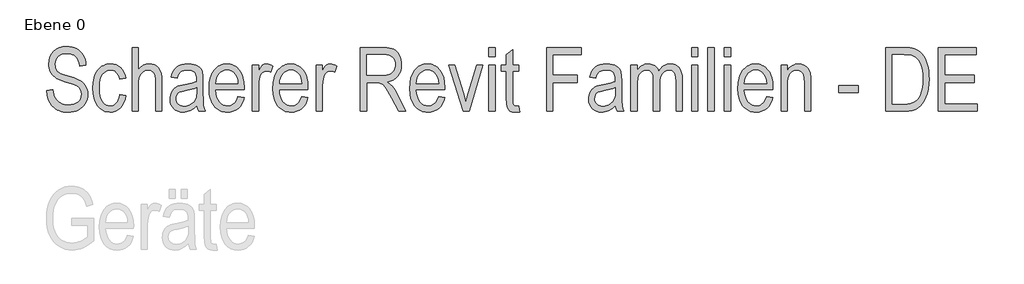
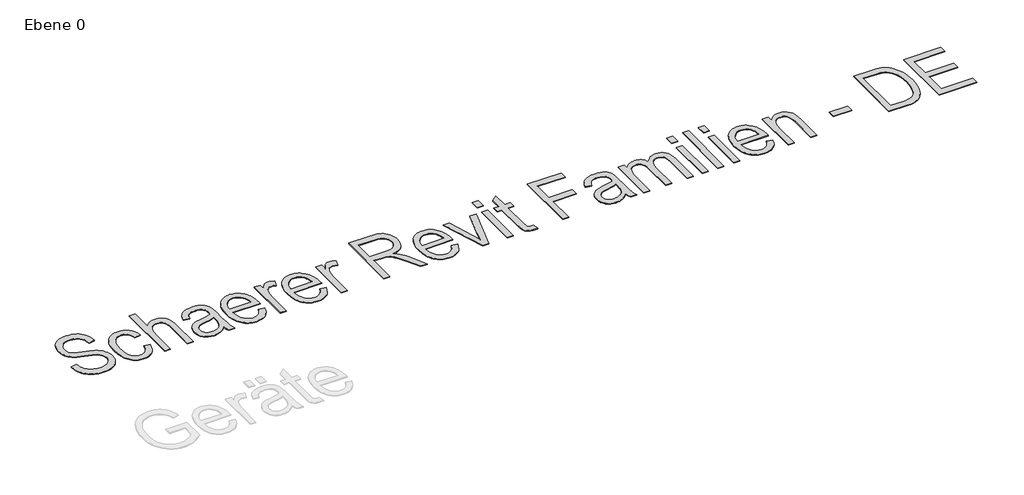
# One storey, part 2 of 2: 1 proxy.
"""IFC4 building model written with IfcOpenShell, lengths in millimetres."""

import ifcopenshell
import ifcopenshell.guid

model = None  # the IFC model being written
_history = None  # IfcOwnerHistory: only IFC2X3 demands one
_inside = {}  # id of a spatial element -> (the spatial element, [elements in it])
_under = {}  # id of a project, library or spatial element -> (it, [spatial elements below it])
_declared = {}  # id of a project -> (the project, [libraries it declares])
_typed = {}  # id of a type object -> (the type object, [elements of that type])
_made_of = {}  # id of a material, layer set ... -> (it, [elements and type objects made of it])


def new_model(schema):
    """Start an empty IFC model of exactly this schema.

    Asked for "IFC4X3", IfcOpenShell would pick the latest addendum, in which some entities
    have other attributes; the version numbers below select the first issue.
    IFC2X3 requires an IfcOwnerHistory on every rooted entity: one is made here for all.
    """
    global model, _history
    if schema == "IFC4X3":
        model = ifcopenshell.file(schema_version=(4, 3, 0, 0))
    else:
        model = ifcopenshell.file(schema=schema)
    _inside.clear()
    _under.clear()
    _declared.clear()
    _typed.clear()
    _made_of.clear()
    _history = None
    if model.schema == "IFC2X3":
        org = make("IfcOrganization", Name="unknown")
        user = make(
            "IfcPersonAndOrganization",
            ThePerson=make("IfcPerson", FamilyName="unknown"),
            TheOrganization=org,
        )
        app = make(
            "IfcApplication",
            ApplicationDeveloper=org,
            Version="unknown",
            ApplicationFullName="unknown",
            ApplicationIdentifier="unknown",
        )
        _history = make(
            "IfcOwnerHistory",
            OwningUser=user,
            OwningApplication=app,
            ChangeAction="ADDED",
            CreationDate=0,
        )
    return model


def make(cls, **values):
    """One entity of the class cls with the attributes given. An attribute that is None is left unset."""
    return model.create_entity(
        cls, **{name: value for name, value in values.items() if value is not None}
    )


def rooted(cls, **values):
    """An entity with a GlobalId (a new one), such as an element, a storey or a relation."""
    return make(cls, GlobalId=ifcopenshell.guid.new(), OwnerHistory=_history, **values)


def si_unit(unit_type, name, prefix=None):
    """IfcSIUnit, for example si_unit("LENGTHUNIT", "METRE", prefix="MILLI")."""
    return make("IfcSIUnit", UnitType=unit_type, Prefix=prefix, Name=name)


def assignment(units):
    """IfcUnitAssignment: the units of a project."""
    return None if units is None else make("IfcUnitAssignment", Units=units)


def point(xyz):
    """IfcCartesianPoint."""
    return None if xyz is None else make("IfcCartesianPoint", Coordinates=xyz)


def direction(xyz):
    """IfcDirection."""
    return None if xyz is None else make("IfcDirection", DirectionRatios=xyz)


def frame(location, z_axis=None, x_axis=None):
    """IfcAxis2Placement3D, a coordinate frame: its origin and axes. An axis left out is left unset."""
    return make(
        "IfcAxis2Placement3D",
        Location=point(location),
        Axis=direction(z_axis),
        RefDirection=direction(x_axis),
    )


def origin():
    """The frame at (0, 0, 0) with its axes left unset."""
    return frame((0.0, 0.0, 0.0))


def origin_with_axes():
    """The frame at (0, 0, 0) with the z axis (0, 0, 1) and the x axis (1, 0, 0) written out."""
    return frame((0.0, 0.0, 0.0), z_axis=(0.0, 0.0, 1.0), x_axis=(1.0, 0.0, 0.0))


def place(relative_to, where):
    """IfcLocalPlacement: puts the frame where relative to a parent placement (None: the world)."""
    return make(
        "IfcLocalPlacement", PlacementRelTo=relative_to, RelativePlacement=where
    )


def context(
    kind, dimensions, precision=None, world=None, true_north=None, identifier=None
):
    """IfcGeometricRepresentationContext, for example the 3D "Model" context."""
    return make(
        "IfcGeometricRepresentationContext",
        ContextIdentifier=identifier,
        ContextType=kind,
        CoordinateSpaceDimension=dimensions,
        Precision=precision,
        WorldCoordinateSystem=world,
        TrueNorth=true_north,
    )


def project(units=None, contexts=None):
    """IfcProject with its units and contexts."""
    return rooted(
        "IfcProject",
        Name="project",
        RepresentationContexts=contexts,
        UnitsInContext=assignment(units),
    )


def spatial(cls, under=None, at=None, **own):
    """A site, building, storey or space (cls), placed at a placement, below another one or the project."""
    s = rooted(cls, ObjectPlacement=at, **own)
    if under is not None:
        _under.setdefault(under.id(), (under, []))[1].append(s)
    return s


def polyline(points):
    """IfcPolyline through the points."""
    return make("IfcPolyline", Points=[point(p) for p in points])


def outline(outer, holes=None, kind="AREA"):
    """IfcArbitraryClosedProfileDef: a profile drawn as a closed curve; with holes, ...WithVoids."""
    if holes is None:
        return make("IfcArbitraryClosedProfileDef", ProfileType=kind, OuterCurve=outer)
    return make(
        "IfcArbitraryProfileDefWithVoids",
        ProfileType=kind,
        OuterCurve=outer,
        InnerCurves=holes,
    )


def extrude(swept, where, along, depth):
    """IfcExtrudedAreaSolid: the profile swept, set in the frame where, extruded along a direction by depth."""
    return make(
        "IfcExtrudedAreaSolid",
        SweptArea=swept,
        Position=where,
        ExtrudedDirection=direction(along),
        Depth=depth,
    )


def shape(context_of_items, identifier, shape_type, items):
    """IfcShapeRepresentation: the items that make up one representation, for example the "Body"."""
    return make(
        "IfcShapeRepresentation",
        ContextOfItems=context_of_items,
        RepresentationIdentifier=identifier,
        RepresentationType=shape_type,
        Items=items,
    )


def made_of(thing, what):
    """Note that an element or type object is made of a material, layer set ...; save() writes the relation."""
    if what is not None:
        _made_of.setdefault(what.id(), (what, []))[1].append(thing)
    return thing


def element(
    cls,
    number,
    at=None,
    inside=None,
    cuts=None,
    type_object=None,
    material=None,
    context=None,
    identifier="Body",
    shape_type=None,
    held_by="IfcProductDefinitionShape",
    body=None,
    shapes=None,
    **own,
):
    """One element of the class cls, such as IfcWall. Its Tag is "e" and its number.

    at: its placement. inside: the storey or other place that contains it. cuts: it is an
    opening in that element (IfcRelVoidsElement). A single representation is given by context,
    identifier, shape_type and body (its items); several are given by shapes. held_by: the class
    of the entity that holds the representations. save() writes the other relations.
    """
    e = rooted(cls, Tag="e%d" % number, ObjectPlacement=at, **own)
    if body is not None:
        shapes = [shape(context, identifier, shape_type, body)]
    if shapes is not None:
        e.Representation = make(held_by, Representations=shapes)
    if inside is not None:
        _inside.setdefault(inside.id(), (inside, []))[1].append(e)
    if cuts is not None:
        rooted(
            "IfcRelVoidsElement", RelatingBuildingElement=cuts, RelatedOpeningElement=e
        )
    if type_object is not None:
        _typed.setdefault(type_object.id(), (type_object, []))[1].append(e)
    return made_of(e, material)


def aggregate(whole, parts):
    """IfcRelAggregates: a whole, such as a stair, and the parts it consists of."""
    return rooted("IfcRelAggregates", RelatingObject=whole, RelatedObjects=parts)


def save(model, path):
    """Write the relations noted so far, then the file.

    IfcRelAggregates (storeys below a building ...), IfcRelContainedInSpatialStructure (elements
    in a storey), IfcRelDefinesByType, IfcRelAssociatesMaterial and IfcRelDeclares: one each for
    every whole, place, type object, material and project.
    """
    for whole, parts in _under.values():
        aggregate(whole, parts)
    for where, things in _inside.values():
        rooted(
            "IfcRelContainedInSpatialStructure",
            RelatedElements=things,
            RelatingStructure=where,
        )
    for kind, things in _typed.values():
        rooted("IfcRelDefinesByType", RelatedObjects=things, RelatingType=kind)
    for what, things in _made_of.values():
        rooted("IfcRelAssociatesMaterial", RelatedObjects=things, RelatingMaterial=what)
    for by, libraries in _declared.values():
        rooted("IfcRelDeclares", RelatingContext=by, RelatedDefinitions=libraries)
    model.write(path)


model = new_model("IFC4")

# Units and contexts
model_context = context("Model", 3, world=origin())
ifc_project = project(units=[si_unit("LENGTHUNIT", "METRE", prefix="MILLI")], contexts=[model_context])

# Site, building, storey
site = spatial("IfcSite", under=ifc_project)
building = spatial("IfcBuilding", under=site)
storey = spatial("IfcBuildingStorey", under=building, Name="Ebene 0", Elevation=0.0)

# Proxy
placement = place(None, origin())
element("IfcBuildingElementProxy", 1, Name="2000mm Arial", ObjectType="2000mm Arial", at=placement, inside=storey, context=model_context, shape_type="SweptSolid", body=[
    extrude(outline(polyline([(-29977.9464869, 13608.1957438), (-29879.5021742, 13624.6031293), (-29873.9342382, 13582.9517636), (-29865.6904884, 13546.1873633), (-29854.7709247, 13514.3099284), (-29841.1755472, 13487.3194588), (-29824.6319677, 13463.9741848), (-29804.8677978, 13443.0323364), (-29781.8830376, 13424.4939136), (-29755.6776871, 13408.3589164), (-29726.9968083, 13395.2922925), (-29696.585463, 13385.9589897), (-29664.4436512, 13380.3590081), (-29630.5713731, 13378.4923475), (-29583.3761056, 13381.4966295), (-29541.7728085, 13390.5094755), (-29505.7614815, 13405.5308856), (-29475.3421248, 13426.5608596), (-29451.1716746, 13452.3976848), (-29433.9070674, 13481.8396485), (-29423.548303, 13514.8867505), (-29420.0953816, 13551.5389909), (-29425.1265525, 13593.7751902), (-29440.2200653, 13630.243168), (-29465.472057, 13660.782696), (-29500.9786646, 13685.2335458), (-29565.166151, 13711.6071361), (-29676.4607793, 13747.9148855), (-29778.3980705, 13784.4469547), (-29815.83543, 13802.4245782), (-29844.251932, 13820.2099277), (-29866.8281098, 13839.0928415), (-29886.7444967, 13860.3631581), (-29904.0010925, 13884.0208774), (-29918.5978973, 13910.0659996), (-29930.206443, 13938.1940905), (-29938.4982613, 13968.1007165), (-29943.4733523, 13999.7858773), (-29945.131716, 14033.2495731), (-29940.2767963, 14092.2136146), (-29925.7120371, 14145.5376173), (-29901.4374385, 14193.2215813), (-29867.4530005, 14235.2655065), (-29825.2488469, 14269.5864241), (-29776.3151016, 14294.1013653), (-29720.6517647, 14308.8103299), (-29658.258836, 14313.7133182), (-29614.4283644, 14311.4781324), (-29573.4339351, 14304.7725749), (-29535.2755479, 14293.5966459), (-29499.953203, 14277.9503452), (-29467.9475853, 14258.1300954), (-29439.7393802, 14234.432319), (-29415.3285875, 14206.8570159), (-29394.7152072, 14175.4041861), (-29378.1636162, 14140.5465035), (-29365.9381913, 14102.7566416), (-29358.0389325, 14062.0346004), (-29354.4658398, 14018.3803801), (-29452.9101525, 14001.9729946), (-29459.6798013, 14048.8478053), (-29471.7850549, 14089.2333669), (-29489.2259134, 14123.1296793), (-29512.0023767, 14150.5367426), (-29540.0183078, 14171.6788765), (-29573.1775697, 14186.7804007), (-29611.4801624, 14195.8413152), (-29654.9260858, 14198.86162), (-29698.9328086, 14195.9054065), (-29737.3796069, 14187.0367661), (-29770.2664805, 14172.2556986), (-29797.5934296, 14151.5622042), (-29819.0720431, 14126.1740184), (-29834.4139099, 14097.3088769), (-29843.6190299, 14064.9667797), (-29846.6874033, 14029.1477268), (-29844.7005715, 13996.2528417), (-29838.740076, 13967.2995746), (-29828.8059168, 13942.2879255), (-29814.898094, 13921.2178944), (-29793.0749895, 13902.1987864), (-29759.13862, 13883.5962723), (-29713.0889854, 13865.4103519), (-29654.9260858, 13847.6410252), (-29547.829441, 13815.3389851), (-29478.2903269, 13787.6515222), (-29441.8383719, 13766.6856395), (-29410.1612224, 13743.2682627), (-29383.2588785, 13717.3993918), (-29361.1313401, 13689.0790268), (-29343.8587215, 13658.1148936), (-29331.5211367, 13624.3147182), (-29324.1185858, 13587.6785006), (-29321.6510689, 13548.2062408), (-29324.1826772, 13508.4776156), (-29331.7775021, 13470.559571), (-29344.4355436, 13434.452107), (-29362.1568017, 13400.1552236), (-29384.2282602, 13368.7584738), (-29409.9369027, 13341.3514105), (-29439.2827293, 13317.9340337), (-29472.26574, 13298.5063435), (-29508.8378663, 13283.2526023), (-29548.9510396, 13272.3570729), (-29592.60526, 13265.8197553), (-29639.8005274, 13263.6406494), (-29712.4400605, 13269.4489279), (-29745.8456736, 13276.7092761), (-29777.3085176, 13286.8737635), (-29806.8285925, 13299.9423903), (-29834.4058985, 13315.9151562), (-29860.0404354, 13334.7920615), (-29883.7322033, 13356.573106), (-29905.0846369, 13380.8336846), (-29923.701171, 13407.1491921), (-29939.5818057, 13435.5196285), (-29952.7265409, 13465.9449938), (-29963.1353766, 13498.425288), (-29970.8083129, 13532.960511), (-29977.9464869, 13608.1957438)])), origin_with_axes(), (0.0, 0.0, 1.0), 10.0),
    extrude(outline(polyline([(-28813.0221199, 13542.566202), (-28714.5778072, 13526.1588166), (-28726.4427183, 13465.9850509), (-28744.8609698, 13413.3900873), (-28769.8325619, 13368.3739257), (-28801.3574943, 13330.9365663), (-28837.8975749, 13301.4946026), (-28877.9146112, 13280.4646286), (-28921.4086032, 13267.8466442), (-28968.3795509, 13263.6406494), (-29024.9722125, 13269.737339), (-29051.2977342, 13277.358201), (-29076.3093833, 13288.0274078), (-29100.0071598, 13301.7449595), (-29122.3910636, 13318.5108559), (-29163.2172531, 13361.1876832), (-29181.1227739, 13387.0385284), (-29196.6408919, 13415.8175471), (-29209.7716071, 13447.5247394), (-29220.5149195, 13482.1601052), (-29234.8393361, 13560.2153574), (-29239.6141416, 13649.9833036), (-29234.6951306, 13740.1197752), (-29219.9380974, 13818.2551415), (-29208.8703225, 13852.8224103), (-29195.343042, 13884.3894027), (-29179.3562561, 13912.9561189), (-29160.9099646, 13938.5225587), (-29118.7538795, 13980.6385867), (-29095.5728395, 13997.1841691), (-29070.9898013, 14010.7214638), (-29045.0047649, 14021.2504708), (-29017.6177301, 14028.7711901), (-28958.6376658, 14034.7877655), (-28912.9485451, 14031.19865), (-28870.9927455, 14020.4313033), (-28832.770267, 14002.4857254), (-28798.2811096, 13977.3619165), (-28768.5827805, 13945.0598763), (-28744.7327871, 13905.5796051), (-28726.7311294, 13858.9211027), (-28714.5778072, 13805.0843692), (-28813.0221199, 13788.6769838), (-28822.1230916, 13823.3904609), (-28834.0440825, 13853.4412924), (-28848.7850929, 13878.8294781), (-28866.3461227, 13899.5550183), (-28886.2625095, 13915.6499584), (-28908.0695911, 13927.1463442), (-28931.7673676, 13934.0441757), (-28957.3558388, 13936.3434528), (-28995.3860433, 13932.0893895), (-29030.0033834, 13919.3271996), (-29061.2078591, 13898.056883), (-29088.9994705, 13868.2784397), (-29111.8240023, 13829.2387965), (-29128.1272393, 13780.18488), (-29137.9091815, 13721.1166901), (-29141.1698289, 13652.0342268), (-29138.1335013, 13580.796692), (-29129.0245182, 13520.1342297), (-29113.8428798, 13470.0468402), (-29092.5885861, 13430.5345232), (-29066.5915325, 13400.5878402), (-29037.1816145, 13379.1973524), (-29004.3588322, 13366.3630596), (-28968.1231855, 13362.0849621), (-28939.4663409, 13364.8328787), (-28912.9725794, 13373.0766285), (-28888.6419008, 13386.8162115), (-28866.4743054, 13406.0516278), (-28847.3190033, 13431.0712883), (-28832.025205, 13462.1636042), (-28820.5929106, 13499.3285754), (-28813.0221199, 13542.566202)])), origin_with_axes(), (0.0, 0.0, 1.0), 10.0),
    extrude(outline(polyline([(-28616.1334945, 13280.0480348), (-28616.1334945, 14297.3059327), (-28517.6891818, 14297.3059327), (-28517.6891818, 13942.7525878), (-28480.5482449, 13983.0980922), (-28438.8568221, 14011.8430624), (-28392.6149135, 14029.0515898), (-28341.822519, 14034.7877655), (-28297.6155108, 14030.9422846), (-28258.3114908, 14019.4058417), (-28223.910459, 14000.1784368), (-28194.4124154, 13973.2600701), (-28170.7466846, 13936.0870874), (-28153.8425912, 13886.0958349), (-28143.7001352, 13823.2863125), (-28140.3193165, 13747.6585202), (-28140.3193165, 13280.0480348), (-28238.7636292, 13280.0480348), (-28238.7636292, 13754.5803859), (-28240.8225638, 13799.7327416), (-28246.9993676, 13838.0273228), (-28257.2940406, 13869.4641297), (-28271.7065828, 13894.0431622), (-28289.7242634, 13912.5495394), (-28310.8343516, 13925.7683802), (-28335.0368474, 13933.6996847), (-28362.3317509, 13936.3434528), (-28393.4320782, 13932.9546227), (-28422.1289799, 13922.7881324), (-28448.422456, 13905.8439819), (-28472.3125065, 13882.1221712), (-28492.1648019, 13849.7640512), (-28506.345013, 13806.9109727), (-28514.8531396, 13753.5629357), (-28517.6891818, 13689.7199403), (-28517.6891818, 13280.0480348), (-28616.1334945, 13280.0480348)])), origin_with_axes(), (0.0, 0.0, 1.0), 10.0),
    extrude(outline(polyline([(-27582.4682112, 13371.8268472), (-27634.5424326, 13324.655614), (-27688.7316685, 13290.8153815), (-27716.6194169, 13278.9264362), (-27745.035919, 13270.4343324), (-27773.9811747, 13265.3390701), (-27803.455184, 13263.6406494), (-27847.9986718, 13267.2137421), (-27887.7993998, 13277.9330203), (-27922.8573679, 13295.7984839), (-27953.1725762, 13320.8101331), (-27977.623426, 13351.8623918), (-27995.0883187, 13387.8496845), (-28005.5672543, 13428.7720111), (-28009.0602329, 13474.6293716), (-28007.3858464, 13505.7617446), (-28002.3626869, 13535.0675141), (-27993.9907544, 13562.5466802), (-27982.2700488, 13588.1992428), (-27967.6492097, 13611.5845739), (-27950.5768765, 13632.2620455), (-27931.0530492, 13650.2316576), (-27909.0777278, 13665.4934102), (-27882.8803887, 13678.4959427), (-27850.6905085, 13689.6878946), (-27768.3331245, 13706.6400565), (-27658.5446429, 13729.3283942), (-27616.2924208, 13742.1146184), (-27582.4682112, 13755.8622129), (-27582.4682112, 13787.3951568), (-27584.2147005, 13822.0365311), (-27589.4541683, 13851.1019581), (-27598.1866146, 13874.5914377), (-27610.4120395, 13892.5049698), (-27632.6517378, 13911.6843061), (-27660.1469267, 13925.3838321), (-27692.8976062, 13933.6035476), (-27730.9037764, 13936.3434528), (-27765.2567397, 13934.6209978), (-27794.9951258, 13929.4536328), (-27820.1189348, 13920.8413577), (-27840.6281666, 13908.7841726), (-27857.6283971, 13891.9682048), (-27872.2252019, 13869.0795816), (-27884.4185811, 13840.1183031), (-27894.2085347, 13805.0843692), (-27992.6528474, 13821.4917547), (-27979.1135499, 13873.4618276), (-27960.0303506, 13917.8530985), (-27935.4032496, 13954.6655673), (-27905.2322468, 13983.8992341), (-27868.7482462, 14006.1629666), (-27825.1821514, 14022.0656327), (-27774.5339625, 14031.6072323), (-27716.8036796, 14034.7877655), (-27671.5712097, 14032.5525797), (-27631.4980935, 14025.8470223), (-27596.5843309, 14014.6710932), (-27566.8299219, 13999.0247926), (-27542.1627638, 13980.0777874), (-27522.5107538, 13958.9997448), (-27507.8738919, 13935.7906649), (-27498.2521781, 13910.4505477), (-27487.5809684, 13845.4619194), (-27484.0238985, 13756.1185783), (-27484.0238985, 13589.2247044), (-27482.3575234, 13446.5253149), (-27477.3583981, 13368.6222797), (-27467.4883303, 13323.7262895), (-27451.2091276, 13280.0480348), (-27549.6534403, 13280.0480348), (-27570.4190375, 13322.2201427), (-27582.4682112, 13371.8268472)]), holes=[polyline([(-27582.4682112, 13657.4179002), (-27615.683553, 13643.4780317), (-27656.1091717, 13630.6277161), (-27758.5912394, 13608.1957438), (-27816.3054995, 13596.1145245), (-27853.5746192, 13582.4310214), (-27877.6088752, 13564.934083), (-27895.6185444, 13541.4125577), (-27906.8665762, 13512.8598616), (-27910.6159202, 13480.2694104), (-27908.46886, 13454.7049734), (-27902.0276794, 13431.8483959), (-27891.2923783, 13411.6996779), (-27876.2629569, 13394.2588195), (-27857.436123, 13380.1827569), (-27835.3085846, 13370.1284264), (-27809.8803417, 13364.0958282), (-27781.1513944, 13362.0849621), (-27752.9672235, 13363.9035541), (-27726.0969252, 13369.3593302), (-27700.5404996, 13378.4522904), (-27676.2979467, 13391.1824347), (-27654.202454, 13406.9489067), (-27635.0872091, 13425.1508499), (-27618.9522118, 13445.7882644), (-27605.7974624, 13468.8611502), (-27595.590915, 13495.9317339), (-27588.300524, 13528.5622422), (-27583.9262894, 13566.752675), (-27582.4682112, 13610.5030324), (-27582.4682112, 13657.4179002)])]), origin_with_axes(), (0.0, 0.0, 1.0), 10.0),
    extrude(outline(polyline([(-26926.1727932, 13509.7514311), (-26827.7284805, 13493.3440457), (-26843.735295, 13439.9239059), (-26865.0937372, 13393.4897233), (-26891.8038071, 13354.0414977), (-26923.8655046, 13321.5792292), (-26960.6859848, 13296.2311006), (-27001.6724028, 13278.1252943), (-27046.8247585, 13267.2618106), (-27096.1430518, 13263.6406494), (-27127.7360814, 13265.1648218), (-27157.7829071, 13269.737339), (-27186.2835291, 13277.358201), (-27213.2379472, 13288.0274078), (-27238.6461615, 13301.7449595), (-27262.5081721, 13318.5108559), (-27284.8239788, 13338.3250971), (-27305.5935817, 13361.1876832), (-27324.3403014, 13386.9303742), (-27340.5874585, 13415.3849305), (-27354.3350529, 13446.551352), (-27365.5830848, 13480.4296388), (-27380.5804605, 13556.3218079), (-27385.5795858, 13643.0614379), (-27380.5564263, 13732.8934755), (-27365.4869477, 13811.3973671), (-27354.1848388, 13846.4012582), (-27340.3711502, 13878.5731127), (-27324.0458818, 13907.9129308), (-27305.2090336, 13934.4207123), (-27262.3559551, 13978.3312981), (-27238.9285641, 13995.5818854), (-27214.1672718, 14009.6960022), (-27188.0720783, 14020.6736487), (-27160.6429836, 14028.5148247), (-27131.8799877, 14033.2195303), (-27101.7830906, 14034.7877655), (-27045.3907145, 14028.731133), (-27019.0271385, 14021.1603424), (-26993.8853038, 14010.5612354), (-26969.9652105, 13996.9338123), (-26947.2668586, 13980.2780729), (-26905.5353787, 13937.8816452), (-26887.11913, 13912.3011854), (-26871.1583811, 13884.012866), (-26857.6531321, 13853.0166872), (-26846.6033829, 13819.3126488), (-26831.8703839, 13743.7809935), (-26826.9593843, 13657.4179002), (-26827.7284805, 13624.6031293), (-27287.1352731, 13624.6031293), (-27280.8463094, 13563.4920276), (-27268.6449188, 13510.3923446), (-27250.5311011, 13465.3040803), (-27226.5048565, 13428.2272347), (-27198.040286, 13399.2899904), (-27166.6114905, 13378.6205302), (-27132.2184701, 13366.2188541), (-27094.8612248, 13362.0849621), (-27065.6996609, 13364.3922507), (-27038.8453855, 13371.3141164), (-27014.2983986, 13382.8505593), (-26992.0587004, 13399.0015793), (-26972.1262907, 13419.7671765), (-26954.5011696, 13445.1473509), (-26939.1833371, 13475.1421024), (-26926.1727932, 13509.7514311)]), holes=[polyline([(-27280.4697727, 13723.047442), (-26926.1727932, 13723.047442), (-26931.5564665, 13768.1997976), (-26940.5292555, 13807.2634751), (-26953.0911599, 13840.2384744), (-26969.24218, 13867.1247955), (-26996.8975973, 13897.4079581), (-27028.0780388, 13919.0387885), (-27062.7835045, 13932.0172867), (-27101.0139944, 13936.3434528), (-27135.83162, 13932.7383144), (-27167.9894545, 13921.9228992), (-27197.4874981, 13903.8972072), (-27224.3257507, 13878.6612384), (-27246.9660198, 13847.3045457), (-27263.8701132, 13810.916682), (-27275.0380309, 13769.4976475), (-27280.4697727, 13723.047442)])]), origin_with_axes(), (0.0, 0.0, 1.0), 10.0),
    extrude(outline(polyline([(-26696.4693969, 13280.0480348), (-26696.4693969, 14018.3803801), (-26598.0250842, 14018.3803801), (-26598.0250842, 13920.4487982), (-26565.0821306, 13978.0028299), (-26549.668161, 13998.0313766), (-26534.9591964, 14012.2276105), (-26504.451714, 14029.1477268), (-26470.3551161, 14034.7877655), (-26445.2313072, 14032.7368423), (-26419.8511328, 14026.5840728), (-26394.214593, 14016.3294569), (-26368.3216879, 14001.9729946), (-26401.1364588, 13903.5286819), (-26439.8476338, 13915.834221), (-26477.5333473, 13919.9360674), (-26509.675159, 13914.0717089), (-26538.93286, 13896.4786335), (-26562.6146136, 13868.3745768), (-26578.0285832, 13830.9772744), (-26593.0259589, 13755.5417561), (-26598.0250842, 13675.363478), (-26598.0250842, 13280.0480348), (-26696.4693969, 13280.0480348)])), origin_with_axes(), (0.0, 0.0, 1.0), 10.0),
    extrude(outline(polyline([(-25908.9148953, 13509.7514311), (-25810.4705826, 13493.3440457), (-25826.4773971, 13439.9239059), (-25847.8358393, 13393.4897233), (-25874.5459092, 13354.0414977), (-25906.6076067, 13321.5792292), (-25943.4280869, 13296.2311006), (-25984.4145049, 13278.1252943), (-26029.5668606, 13267.2618106), (-26078.8851539, 13263.6406494), (-26110.4781835, 13265.1648218), (-26140.5250092, 13269.737339), (-26169.0256312, 13277.358201), (-26195.9800493, 13288.0274078), (-26221.3882636, 13301.7449595), (-26245.2502742, 13318.5108559), (-26267.5660809, 13338.3250971), (-26288.3356838, 13361.1876832), (-26307.0824035, 13386.9303742), (-26323.3295606, 13415.3849305), (-26337.077155, 13446.551352), (-26348.3251869, 13480.4296388), (-26363.3225626, 13556.3218079), (-26368.3216879, 13643.0614379), (-26363.2985284, 13732.8934755), (-26348.2290498, 13811.3973671), (-26336.9269409, 13846.4012582), (-26323.1132523, 13878.5731127), (-26306.7879839, 13907.9129308), (-26287.9511357, 13934.4207123), (-26245.0980572, 13978.3312981), (-26221.6706661, 13995.5818854), (-26196.9093739, 14009.6960022), (-26170.8141804, 14020.6736487), (-26143.3850857, 14028.5148247), (-26114.6220898, 14033.2195303), (-26084.5251927, 14034.7877655), (-26028.1328166, 14028.731133), (-26001.7692406, 14021.1603424), (-25976.6274059, 14010.5612354), (-25952.7073126, 13996.9338123), (-25930.0089607, 13980.2780729), (-25888.2774808, 13937.8816452), (-25869.8612321, 13912.3011854), (-25853.9004832, 13884.012866), (-25840.3952342, 13853.0166872), (-25829.345485, 13819.3126488), (-25814.612486, 13743.7809935), (-25809.7014864, 13657.4179002), (-25810.4705826, 13624.6031293), (-26269.8773752, 13624.6031293), (-26263.5884115, 13563.4920276), (-26251.3870209, 13510.3923446), (-26233.2732032, 13465.3040803), (-26209.2469586, 13428.2272347), (-26180.7823881, 13399.2899904), (-26149.3535926, 13378.6205302), (-26114.9605722, 13366.2188541), (-26077.6033269, 13362.0849621), (-26048.441763, 13364.3922507), (-26021.5874875, 13371.3141164), (-25997.0405007, 13382.8505593), (-25974.8008025, 13399.0015793), (-25954.8683928, 13419.7671765), (-25937.2432717, 13445.1473509), (-25921.9254392, 13475.1421024), (-25908.9148953, 13509.7514311)]), holes=[polyline([(-26263.2118748, 13723.047442), (-25908.9148953, 13723.047442), (-25914.2985686, 13768.1997976), (-25923.2713575, 13807.2634751), (-25935.833262, 13840.2384744), (-25951.9842821, 13867.1247955), (-25979.6396994, 13897.4079581), (-26010.8201408, 13919.0387885), (-26045.5256066, 13932.0172867), (-26083.7560965, 13936.3434528), (-26118.573722, 13932.7383144), (-26150.7315566, 13921.9228992), (-26180.2296002, 13903.8972072), (-26207.0678528, 13878.6612384), (-26229.7081219, 13847.3045457), (-26246.6122153, 13810.916682), (-26257.780133, 13769.4976475), (-26263.2118748, 13723.047442)])]), origin_with_axes(), (0.0, 0.0, 1.0), 10.0),
    extrude(outline(polyline([(-25679.211499, 13280.0480348), (-25679.211499, 14018.3803801), (-25580.7671863, 14018.3803801), (-25580.7671863, 13920.4487982), (-25547.8242327, 13978.0028299), (-25532.4102631, 13998.0313766), (-25517.7012985, 14012.2276105), (-25487.1938161, 14029.1477268), (-25453.0972182, 14034.7877655), (-25427.9734093, 14032.7368423), (-25402.5932349, 14026.5840728), (-25376.9566951, 14016.3294569), (-25351.06379, 14001.9729946), (-25383.8785609, 13903.5286819), (-25422.5897359, 13915.834221), (-25460.2754494, 13919.9360674), (-25492.4172611, 13914.0717089), (-25521.6749621, 13896.4786335), (-25545.3567157, 13868.3745768), (-25560.7706853, 13830.9772744), (-25575.768061, 13755.5417561), (-25580.7671863, 13675.363478), (-25580.7671863, 13280.0480348), (-25679.211499, 13280.0480348)])), origin_with_axes(), (0.0, 0.0, 1.0), 10.0),
    extrude(outline(polyline([(-24973.6939246, 13280.0480348), (-24973.6939246, 14297.3059327), (-24609.65506, 14297.3059327), (-24556.3550915, 14295.5434206), (-24510.5377881, 14290.2558843), (-24472.2031497, 14281.4433237), (-24441.3511764, 14269.105739), (-24415.4502598, 14252.6582964), (-24391.9687917, 14231.5161626), (-24370.906772, 14205.6793373), (-24352.2642007, 14175.1478207), (-24337.0104595, 14140.9630973), (-24326.1149301, 14104.1666513), (-24319.5776125, 14064.7584828), (-24317.3985066, 14022.7385918), (-24321.0757478, 13968.397139), (-24332.1074713, 13919.4553823), (-24350.4936772, 13875.9133217), (-24376.2343654, 13837.7709574), (-24408.9770335, 13805.5570429), (-24448.3691791, 13779.8003319), (-24494.4108023, 13760.5008243), (-24547.1019029, 13747.6585202), (-24501.0202227, 13715.9333022), (-24467.3722643, 13683.8235361), (-24424.4310601, 13622.6162974), (-24386.8735294, 13554.8717411), (-24251.7689648, 13280.0480348), (-24360.9806242, 13280.0480348), (-24475.0632262, 13492.8313149), (-24533.5145368, 13597.7808995), (-24576.5839237, 13662.9297562), (-24611.4175721, 13700.7756981), (-24645.1616675, 13723.8165382), (-24684.9944412, 13735.5452551), (-24738.0941242, 13739.4548274), (-24875.2496119, 13739.4548274), (-24875.2496119, 13280.0480348), (-24973.6939246, 13280.0480348)]), holes=[polyline([(-24875.2496119, 13854.3065256), (-24628.8824648, 13854.3065256), (-24558.0615237, 13858.8890571), (-24529.9093984, 13864.6172214), (-24506.5961701, 13872.6366515), (-24486.7839317, 13883.1075757), (-24469.1347764, 13896.1902224), (-24453.6487041, 13911.8845916), (-24440.3257148, 13930.1906833), (-24429.614448, 13950.6037781), (-24421.9635432, 13972.6191566), (-24417.3730003, 13996.2368189), (-24415.8428193, 14021.4567648), (-24418.7669871, 14057.0034295), (-24427.5394906, 14088.528362), (-24442.1603297, 14116.0315623), (-24462.6295044, 14139.5130305), (-24488.8669006, 14158.2998073), (-24520.792404, 14171.7189336), (-24558.4060147, 14179.7704093), (-24601.7077326, 14182.4542346), (-24875.2496119, 14182.4542346), (-24875.2496119, 13854.3065256)])]), origin_with_axes(), (0.0, 0.0, 1.0), 10.0),
    extrude(outline(polyline([(-23726.7326304, 13509.7514311), (-23628.2883177, 13493.3440457), (-23644.2951322, 13439.9239059), (-23665.6535744, 13393.4897233), (-23692.3636443, 13354.0414977), (-23724.4253418, 13321.5792292), (-23761.2458221, 13296.2311006), (-23802.23224, 13278.1252943), (-23847.3845957, 13267.2618106), (-23896.7028891, 13263.6406494), (-23928.2959186, 13265.1648218), (-23958.3427444, 13269.737339), (-23986.8433663, 13277.358201), (-24013.7977844, 13288.0274078), (-24039.2059988, 13301.7449595), (-24063.0680093, 13318.5108559), (-24085.383816, 13338.3250971), (-24106.153419, 13361.1876832), (-24124.9001387, 13386.9303742), (-24141.1472957, 13415.3849305), (-24154.8948902, 13446.551352), (-24166.142922, 13480.4296388), (-24181.1402978, 13556.3218079), (-24186.139423, 13643.0614379), (-24181.1162635, 13732.8934755), (-24166.046785, 13811.3973671), (-24154.7446761, 13846.4012582), (-24140.9309874, 13878.5731127), (-24124.605719, 13907.9129308), (-24105.7688709, 13934.4207123), (-24062.9157924, 13978.3312981), (-24039.4884013, 13995.5818854), (-24014.727109, 14009.6960022), (-23988.6319155, 14020.6736487), (-23961.2028208, 14028.5148247), (-23932.4398249, 14033.2195303), (-23902.3429278, 14034.7877655), (-23845.9505517, 14028.731133), (-23819.5869757, 14021.1603424), (-23794.4451411, 14010.5612354), (-23770.5250478, 13996.9338123), (-23747.8266958, 13980.2780729), (-23706.0952159, 13937.8816452), (-23687.6789672, 13912.3011854), (-23671.7182184, 13884.012866), (-23658.2129693, 13853.0166872), (-23647.1632201, 13819.3126488), (-23632.4302212, 13743.7809935), (-23627.5192215, 13657.4179002), (-23628.2883177, 13624.6031293), (-24087.6951103, 13624.6031293), (-24081.4061467, 13563.4920276), (-24069.204756, 13510.3923446), (-24051.0909384, 13465.3040803), (-24027.0646938, 13428.2272347), (-23998.6001232, 13399.2899904), (-23967.1713277, 13378.6205302), (-23932.7783074, 13366.2188541), (-23895.4210621, 13362.0849621), (-23866.2594981, 13364.3922507), (-23839.4052227, 13371.3141164), (-23814.8582359, 13382.8505593), (-23792.6185376, 13399.0015793), (-23772.6861279, 13419.7671765), (-23755.0610069, 13445.1473509), (-23739.7431744, 13475.1421024), (-23726.7326304, 13509.7514311)]), holes=[polyline([(-24081.02961, 13723.047442), (-23726.7326304, 13723.047442), (-23732.1163038, 13768.1997976), (-23741.0890927, 13807.2634751), (-23753.6509972, 13840.2384744), (-23769.8020172, 13867.1247955), (-23797.4574345, 13897.4079581), (-23828.637876, 13919.0387885), (-23863.3433417, 13932.0172867), (-23901.5738316, 13936.3434528), (-23936.3914572, 13932.7383144), (-23968.5492918, 13921.9228992), (-23998.0473353, 13903.8972072), (-24024.8855879, 13878.6612384), (-24047.5258571, 13847.3045457), (-24064.4299505, 13810.916682), (-24075.5978681, 13769.4976475), (-24081.02961, 13723.047442)])]), origin_with_axes(), (0.0, 0.0, 1.0), 10.0),
    extrude(outline(polyline([(-23333.4681104, 13280.0480348), (-23565.7351607, 14018.3803801), (-23464.2144632, 14018.3803801), (-23331.6735526, 13576.4064345), (-23291.936916, 13427.7145039), (-23254.5075679, 13568.2027418), (-23119.6593688, 14018.3803801), (-23018.1386713, 14018.3803801), (-23233.2292399, 13280.0480348), (-23333.4681104, 13280.0480348)])), origin_with_axes(), (0.0, 0.0, 1.0), 10.0),
    extrude(outline(polyline([(-22922.7707434, 14149.6394637), (-22922.7707434, 14297.3059327), (-22824.3264307, 14297.3059327), (-22824.3264307, 14149.6394637), (-22922.7707434, 14149.6394637)])), origin_with_axes(), (0.0, 0.0, 1.0), 10.0),
    extrude(outline(polyline([(-22922.7707434, 13280.0480348), (-22922.7707434, 14018.3803801), (-22824.3264307, 14018.3803801), (-22824.3264307, 13280.0480348), (-22922.7707434, 13280.0480348)])), origin_with_axes(), (0.0, 0.0, 1.0), 10.0),
    extrude(outline(polyline([(-22446.9565653, 13362.0849621), (-22430.5491799, 13263.6406494), (-22504.8951452, 13263.6406494), (-22551.6818303, 13268.9922771), (-22571.3258289, 13275.6818116), (-22588.4702648, 13285.0471601), (-22615.2604489, 13310.3952888), (-22632.0523824, 13343.6266534), (-22640.8969886, 13399.1938534), (-22643.8451907, 13491.5494879), (-22643.8451907, 13919.9360674), (-22725.882118, 13919.9360674), (-22725.882118, 14018.3803801), (-22643.8451907, 14018.3803801), (-22643.8451907, 14182.4542346), (-22545.400878, 14264.4911618), (-22545.400878, 14018.3803801), (-22446.9565653, 14018.3803801), (-22446.9565653, 13919.9360674), (-22545.400878, 13919.9360674), (-22545.400878, 13468.9893329), (-22543.2217721, 13417.5239793), (-22536.6844545, 13388.2342326), (-22529.1537209, 13376.7939268), (-22518.8670594, 13368.6222797), (-22505.8244698, 13363.7192915), (-22490.0259521, 13362.0849621), (-22446.9565653, 13362.0849621)])), origin_with_axes(), (0.0, 0.0, 1.0), 10.0),
    extrude(outline(polyline([(-22003.9571582, 13280.0480348), (-22003.9571582, 14297.3059327), (-21446.1060529, 14297.3059327), (-21446.1060529, 14182.4542346), (-21905.5128455, 14182.4542346), (-21905.5128455, 13854.3065256), (-21511.7355947, 13854.3065256), (-21511.7355947, 13739.4548274), (-21905.5128455, 13739.4548274), (-21905.5128455, 13280.0480348), (-22003.9571582, 13280.0480348)])), origin_with_axes(), (0.0, 0.0, 1.0), 10.0),
    extrude(outline(polyline([(-20904.662333, 13371.8268472), (-20956.7365544, 13324.655614), (-21010.9257903, 13290.8153815), (-21038.8135387, 13278.9264362), (-21067.2300408, 13270.4343324), (-21096.1752965, 13265.3390701), (-21125.6493058, 13263.6406494), (-21170.1927936, 13267.2137421), (-21209.9935216, 13277.9330203), (-21245.0514897, 13295.7984839), (-21275.366698, 13320.8101331), (-21299.8175478, 13351.8623918), (-21317.2824405, 13387.8496845), (-21327.7613762, 13428.7720111), (-21331.2543547, 13474.6293716), (-21329.5799682, 13505.7617446), (-21324.5568087, 13535.0675141), (-21316.1848762, 13562.5466802), (-21304.4641707, 13588.1992428), (-21289.8433316, 13611.5845739), (-21272.7709984, 13632.2620455), (-21253.2471711, 13650.2316576), (-21231.2718496, 13665.4934102), (-21205.0745105, 13678.4959427), (-21172.8846303, 13689.6878946), (-21090.5272463, 13706.6400565), (-20980.7387648, 13729.3283942), (-20938.4865427, 13742.1146184), (-20904.662333, 13755.8622129), (-20904.662333, 13787.3951568), (-20906.4088223, 13822.0365311), (-20911.6482901, 13851.1019581), (-20920.3807365, 13874.5914377), (-20932.6061614, 13892.5049698), (-20954.8458596, 13911.6843061), (-20982.3410485, 13925.3838321), (-21015.091728, 13933.6035476), (-21053.0978983, 13936.3434528), (-21087.4508615, 13934.6209978), (-21117.1892477, 13929.4536328), (-21142.3130566, 13920.8413577), (-21162.8222884, 13908.7841726), (-21179.8225189, 13891.9682048), (-21194.4193237, 13869.0795816), (-21206.6127029, 13840.1183031), (-21216.4026566, 13805.0843692), (-21314.8469693, 13821.4917547), (-21301.3076717, 13873.4618276), (-21282.2244724, 13917.8530985), (-21257.5973714, 13954.6655673), (-21227.4263687, 13983.8992341), (-21190.942368, 14006.1629666), (-21147.3762732, 14022.0656327), (-21096.7280844, 14031.6072323), (-21038.9978014, 14034.7877655), (-20993.7653315, 14032.5525797), (-20953.6922153, 14025.8470223), (-20918.7784527, 14014.6710932), (-20889.0240437, 13999.0247926), (-20864.3568856, 13980.0777874), (-20844.7048756, 13958.9997448), (-20830.0680137, 13935.7906649), (-20820.4462999, 13910.4505477), (-20809.7750902, 13845.4619194), (-20806.2180203, 13756.1185783), (-20806.2180203, 13589.2247044), (-20804.5516452, 13446.5253149), (-20799.55252, 13368.6222797), (-20789.6824522, 13323.7262895), (-20773.4032494, 13280.0480348), (-20871.8475621, 13280.0480348), (-20892.6131593, 13322.2201427), (-20904.662333, 13371.8268472)]), holes=[polyline([(-20904.662333, 13657.4179002), (-20937.8776748, 13643.4780317), (-20978.3032935, 13630.6277161), (-21080.7853612, 13608.1957438), (-21138.4996213, 13596.1145245), (-21175.768741, 13582.4310214), (-21199.8029971, 13564.934083), (-21217.8126662, 13541.4125577), (-21229.0606981, 13512.8598616), (-21232.810042, 13480.2694104), (-21230.6629818, 13454.7049734), (-21224.2218012, 13431.8483959), (-21213.4865002, 13411.6996779), (-21198.4570787, 13394.2588195), (-21179.6302448, 13380.1827569), (-21157.5027064, 13370.1284264), (-21132.0744636, 13364.0958282), (-21103.3455162, 13362.0849621), (-21075.1613453, 13363.9035541), (-21048.291047, 13369.3593302), (-21022.7346215, 13378.4522904), (-20998.4920685, 13391.1824347), (-20976.3965758, 13406.9489067), (-20957.2813309, 13425.1508499), (-20941.1463337, 13445.7882644), (-20927.9915842, 13468.8611502), (-20917.7850368, 13495.9317339), (-20910.4946458, 13528.5622422), (-20906.1204112, 13566.752675), (-20904.662333, 13610.5030324), (-20904.662333, 13657.4179002)])]), origin_with_axes(), (0.0, 0.0, 1.0), 10.0),
    extrude(outline(polyline([(-20658.5515513, 13280.0480348), (-20658.5515513, 14018.3803801), (-20560.1072386, 14018.3803801), (-20560.1072386, 13924.2942791), (-20544.1725268, 13949.3059282), (-20526.1067777, 13971.2732383), (-20505.9099912, 13990.1962092), (-20483.5821674, 14006.074841), (-20459.6360369, 14018.6367455), (-20434.5843307, 14027.6095344), (-20408.4270487, 14032.9932077), (-20381.164191, 14034.7877655), (-20351.217508, 14032.8730365), (-20323.6742506, 14027.1288493), (-20298.5344188, 14017.555204), (-20275.7980126, 14004.1521005), (-20255.8175344, 13987.0957901), (-20238.9454866, 13966.5625241), (-20225.1818694, 13942.5523023), (-20214.5266825, 13915.0651248), (-20195.6517801, 13943.177193), (-20175.4309594, 13967.5238943), (-20153.8642203, 13988.1052289), (-20130.9515629, 14004.9211967), (-20106.7250328, 14017.9878206), (-20081.2166757, 14027.3211233), (-20054.4264917, 14032.921105), (-20026.3544806, 14034.7877655), (-19984.9594803, 14031.0945015), (-19948.19508, 14020.0147095), (-19916.0612797, 14001.5483894), (-19888.5580794, 13975.6955414), (-19866.5186666, 13941.7191148), (-19850.7762289, 13898.8820591), (-19841.3307663, 13847.1843744), (-19838.1822788, 13786.6260606), (-19838.1822788, 13280.0480348), (-19936.6265915, 13280.0480348), (-19936.6265915, 13752.2730973), (-19939.5747935, 13820.8508412), (-19948.4193997, 13866.0993339), (-19963.865415, 13895.8697657), (-19986.617844, 13918.0133269), (-20014.6257637, 13931.7609213), (-20045.8382509, 13936.3434528), (-20078.1242681, 13933.0107027), (-20107.3018549, 13923.0124521), (-20133.3710113, 13906.3487013), (-20156.3317372, 13883.0194501), (-20175.0624341, 13852.5440135), (-20188.4415033, 13814.4417062), (-20196.4689448, 13768.7125284), (-20199.1447587, 13715.35648), (-20199.1447587, 13280.0480348), (-20297.5890714, 13280.0480348), (-20297.5890714, 13766.885925), (-20299.3836291, 13810.0915059), (-20304.7673025, 13846.3912439), (-20313.7400914, 13875.785139), (-20326.3019959, 13898.2731913), (-20342.0203993, 13914.9289307), (-20360.4626851, 13926.8258874), (-20381.6288533, 13933.9640615), (-20405.5189038, 13936.3434528), (-20439.4072048, 13932.7463258), (-20469.5461618, 13921.9549449), (-20495.935775, 13903.96931), (-20518.5760441, 13878.7894211), (-20536.7459417, 13844.0919668), (-20549.72444, 13797.5536357), (-20557.5115389, 13739.1744278), (-20560.1072386, 13668.9543431), (-20560.1072386, 13280.0480348), (-20658.5515513, 13280.0480348)])), origin_with_axes(), (0.0, 0.0, 1.0), 10.0),
    extrude(outline(polyline([(-19690.5158097, 14149.6394637), (-19690.5158097, 14297.3059327), (-19592.071497, 14297.3059327), (-19592.071497, 14149.6394637), (-19690.5158097, 14149.6394637)])), origin_with_axes(), (0.0, 0.0, 1.0), 10.0),
    extrude(outline(polyline([(-19690.5158097, 13280.0480348), (-19690.5158097, 14018.3803801), (-19592.071497, 14018.3803801), (-19592.071497, 13280.0480348), (-19690.5158097, 13280.0480348)])), origin_with_axes(), (0.0, 0.0, 1.0), 10.0),
    extrude(outline(polyline([(-19427.9976425, 13280.0480348), (-19427.9976425, 14297.3059327), (-19329.5533298, 14297.3059327), (-19329.5533298, 13280.0480348), (-19427.9976425, 13280.0480348)])), origin_with_axes(), (0.0, 0.0, 1.0), 10.0),
    extrude(outline(polyline([(-19165.4794753, 14149.6394637), (-19165.4794753, 14297.3059327), (-19067.0351626, 14297.3059327), (-19067.0351626, 14149.6394637), (-19165.4794753, 14149.6394637)])), origin_with_axes(), (0.0, 0.0, 1.0), 10.0),
    extrude(outline(polyline([(-19165.4794753, 13280.0480348), (-19165.4794753, 14018.3803801), (-19067.0351626, 14018.3803801), (-19067.0351626, 13280.0480348), (-19165.4794753, 13280.0480348)])), origin_with_axes(), (0.0, 0.0, 1.0), 10.0),
    extrude(outline(polyline([(-18492.7766718, 13509.7514311), (-18394.3323591, 13493.3440457), (-18410.3391737, 13439.9239059), (-18431.6976159, 13393.4897233), (-18458.4076857, 13354.0414977), (-18490.4693833, 13321.5792292), (-18527.2898635, 13296.2311006), (-18568.2762815, 13278.1252943), (-18613.4286371, 13267.2618106), (-18662.7469305, 13263.6406494), (-18694.33996, 13265.1648218), (-18724.3867858, 13269.737339), (-18752.8874077, 13277.358201), (-18779.8418259, 13288.0274078), (-18805.2500402, 13301.7449595), (-18829.1120507, 13318.5108559), (-18851.4278575, 13338.3250971), (-18872.1974604, 13361.1876832), (-18890.9441801, 13386.9303742), (-18907.1913372, 13415.3849305), (-18920.9389316, 13446.551352), (-18932.1869634, 13480.4296388), (-18947.1843392, 13556.3218079), (-18952.1834644, 13643.0614379), (-18947.1603049, 13732.8934755), (-18932.0908264, 13811.3973671), (-18920.7887175, 13846.4012582), (-18906.9750289, 13878.5731127), (-18890.6497604, 13907.9129308), (-18871.8129123, 13934.4207123), (-18828.9598338, 13978.3312981), (-18805.5324427, 13995.5818854), (-18780.7711504, 14009.6960022), (-18754.675957, 14020.6736487), (-18727.2468623, 14028.5148247), (-18698.4838664, 14033.2195303), (-18668.3869692, 14034.7877655), (-18611.9945932, 14028.731133), (-18585.6310172, 14021.1603424), (-18560.4891825, 14010.5612354), (-18536.5690892, 13996.9338123), (-18513.8707372, 13980.2780729), (-18472.1392573, 13937.8816452), (-18453.7230087, 13912.3011854), (-18437.7622598, 13884.012866), (-18424.2570108, 13853.0166872), (-18413.2072615, 13819.3126488), (-18398.4742626, 13743.7809935), (-18393.563263, 13657.4179002), (-18394.3323591, 13624.6031293), (-18853.7391517, 13624.6031293), (-18847.4501881, 13563.4920276), (-18835.2487974, 13510.3923446), (-18817.1349798, 13465.3040803), (-18793.1087352, 13428.2272347), (-18764.6441646, 13399.2899904), (-18733.2153692, 13378.6205302), (-18698.8223488, 13366.2188541), (-18661.4651035, 13362.0849621), (-18632.3035395, 13364.3922507), (-18605.4492641, 13371.3141164), (-18580.9022773, 13382.8505593), (-18558.662579, 13399.0015793), (-18538.7301694, 13419.7671765), (-18521.1050483, 13445.1473509), (-18505.7872158, 13475.1421024), (-18492.7766718, 13509.7514311)]), holes=[polyline([(-18847.0736514, 13723.047442), (-18492.7766718, 13723.047442), (-18498.1603452, 13768.1997976), (-18507.1331341, 13807.2634751), (-18519.6950386, 13840.2384744), (-18535.8460587, 13867.1247955), (-18563.5014759, 13897.4079581), (-18594.6819174, 13919.0387885), (-18629.3873831, 13932.0172867), (-18667.617873, 13936.3434528), (-18702.4354986, 13932.7383144), (-18734.5933332, 13921.9228992), (-18764.0913768, 13903.8972072), (-18790.9296293, 13878.6612384), (-18813.5698985, 13847.3045457), (-18830.4739919, 13810.916682), (-18841.6419095, 13769.4976475), (-18847.0736514, 13723.047442)])]), origin_with_axes(), (0.0, 0.0, 1.0), 10.0),
    extrude(outline(polyline([(-18263.0732755, 13280.0480348), (-18263.0732755, 14018.3803801), (-18164.6289628, 14018.3803801), (-18164.6289628, 13923.0124521), (-18147.9812348, 13949.3139397), (-18129.5709947, 13972.0743801), (-18109.3982425, 13991.2937735), (-18087.4629782, 14006.9721199), (-18063.8132702, 14019.1414649), (-18038.4971872, 14027.8338541), (-18011.5147291, 14033.0492877), (-17982.8658959, 14034.7877655), (-17938.6749105, 14030.01296), (-17897.8807666, 14015.6885434), (-17862.5664331, 13993.6411192), (-17834.8148788, 13965.6972909), (-17813.8890532, 13930.1906833), (-17799.0519058, 13885.4549214), (-17790.2072996, 13822.8697187), (-17787.2590975, 13733.8147887), (-17787.2590975, 13280.0480348), (-17885.7034102, 13280.0480348), (-17885.7034102, 13735.8657119), (-17889.068206, 13807.3275665), (-17899.1625936, 13856.6138142), (-17916.4352122, 13890.4540466), (-17941.3347015, 13915.5778556), (-17972.3549146, 13931.1520535), (-18007.9897049, 13936.3434528), (-18041.9420972, 13932.8584857), (-18072.2733283, 13922.4035843), (-18098.9833982, 13904.9787487), (-18122.0723068, 13880.5839788), (-18140.6908438, 13847.7291508), (-18153.9897988, 13804.9241409), (-18161.9691718, 13752.1689489), (-18164.6289628, 13689.4635749), (-18164.6289628, 13280.0480348), (-18263.0732755, 13280.0480348)])), origin_with_axes(), (0.0, 0.0, 1.0), 10.0),
    extrude(outline(polyline([(-17344.2596903, 13575.3809729), (-17344.2596903, 13690.2326711), (-17032.5193668, 13690.2326711), (-17032.5193668, 13575.3809729), (-17344.2596903, 13575.3809729)])), origin_with_axes(), (0.0, 0.0, 1.0), 10.0),
    extrude(outline(polyline([(-16589.5199596, 13280.0480348), (-16589.5199596, 14297.3059327), (-16301.8779835, 14297.3059327), (-16207.8559739, 14292.6272642), (-16170.50674, 14286.7789286), (-16139.5986867, 14278.5912587), (-16104.4125359, 14263.9063283), (-16071.6618564, 14244.2062497), (-16041.3466481, 14219.4910231), (-16013.4669111, 14189.7606484), (-15988.2709994, 14155.4156965), (-15966.0072669, 14116.8567385), (-15946.6757136, 14074.0837741), (-15930.2763396, 14027.0968036), (-15917.2097157, 13975.727587), (-15907.8764129, 13919.8078847), (-15902.2764313, 13859.3376965), (-15900.4097707, 13794.3170225), (-15903.5742811, 13711.1905423), (-15913.0678122, 13634.6013798), (-15928.8903641, 13564.5495349), (-15951.0419368, 13501.0350076), (-15978.1525776, 13445.1793966), (-16008.8523339, 13398.1043004), (-16043.1412059, 13359.8097192), (-16081.0191934, 13330.2956528), (-16123.7440892, 13308.3123199), (-16172.573686, 13292.6099393), (-16227.5079839, 13283.1885109), (-16288.5469828, 13280.0480348), (-16589.5199596, 13280.0480348)]), holes=[polyline([(-16491.0756469, 13394.899733), (-16303.1598105, 13394.899733), (-16249.8037621, 13397.1188959), (-16203.3054881, 13403.7763849), (-16163.6649885, 13414.8721997), (-16130.8822632, 13430.4063406), (-16103.226846, 13450.8594924), (-16078.9682702, 13476.7123405), (-16058.106536, 13507.9648848), (-16040.6416433, 13544.6171252), (-16022.3595858, 13599.6235258), (-16009.3009734, 13659.7892801), (-16001.4658059, 13725.114388), (-15998.8540834, 13795.5988495), (-16001.6260343, 13869.8486778), (-16009.9418869, 13935.7025393), (-16023.8016412, 13993.1604341), (-16043.2052972, 14042.2223621), (-16066.967165, 14083.3529855), (-16093.9015546, 14117.0169668), (-16124.008466, 14143.2143059), (-16157.2878992, 14161.9450028), (-16184.1902431, 14170.9177917), (-16217.9824071, 14177.3269266), (-16306.2361952, 14182.4542346), (-16491.0756469, 14182.4542346), (-16491.0756469, 13394.899733)])]), origin_with_axes(), (0.0, 0.0, 1.0), 10.0),
    extrude(outline(polyline([(-15752.7433017, 13280.0480348), (-15752.7433017, 14297.3059327), (-15145.67004, 14297.3059327), (-15145.67004, 14182.4542346), (-15654.298989, 14182.4542346), (-15654.298989, 13854.3065256), (-15178.4848109, 13854.3065256), (-15178.4848109, 13739.4548274), (-15654.298989, 13739.4548274), (-15654.298989, 13394.899733), (-15129.2626546, 13394.899733), (-15129.2626546, 13280.0480348), (-15752.7433017, 13280.0480348)])), origin_with_axes(), (0.0, 0.0, 1.0), 10.0),
])

save(model, "model.ifc")
